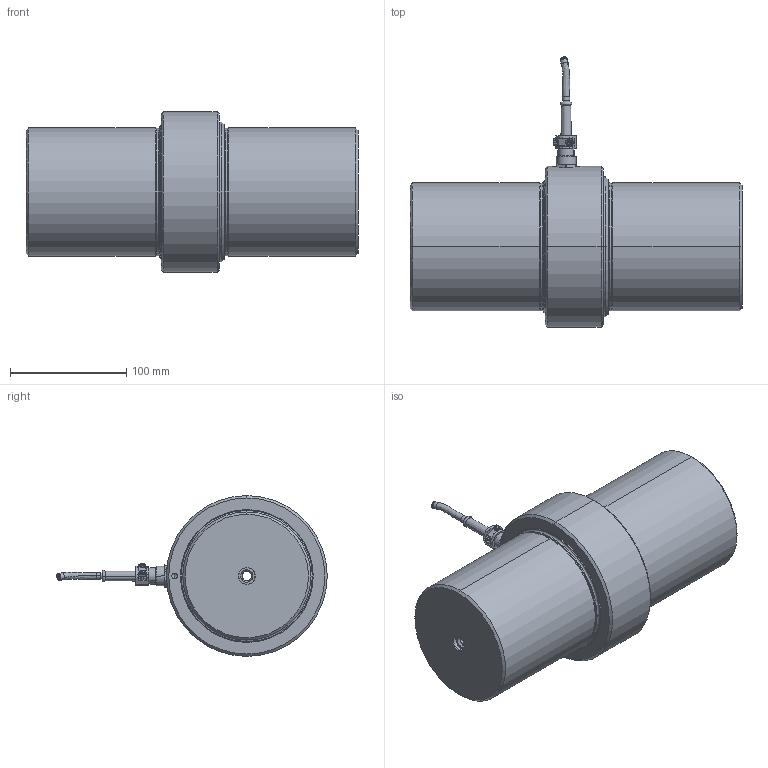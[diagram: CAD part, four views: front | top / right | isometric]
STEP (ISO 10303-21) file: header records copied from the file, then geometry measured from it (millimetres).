
FILE_DESCRIPTION (( 'STEP AP203' ), '1' );
FILE_NAME ('DRW-K-10000-20000.STEP', '2014-05-13T12:35:36', ( 'nsi' ), ( '' ), 'SwSTEP 2.0', 'SolidWorks 2014', '' );
FILE_SCHEMA (( 'CONFIG_CONTROL_DESIGN' ));
Length unit declared in the file: millimetre
Products named in the file (1): DRW-K-10000-20000
Bounding box: 285 x 232.11 x 138 mm (x, y, z)
Surface area: 148971.4 mm2 (no closed solid volume)
Topology: 0 solids, 14 shells, 204 faces, 510 edges, 330 vertices
Faces by surface type: cylinder 85, plane 65, cone 32, torus 16, bspline 6
Entity records: 6684 total; most frequent: CARTESIAN_POINT 1622, DIRECTION 1142, ORIENTED_EDGE 935, EDGE_CURVE 508, AXIS2_PLACEMENT_3D 467, VERTEX_POINT 330, CIRCLE 268, EDGE_LOOP 237
